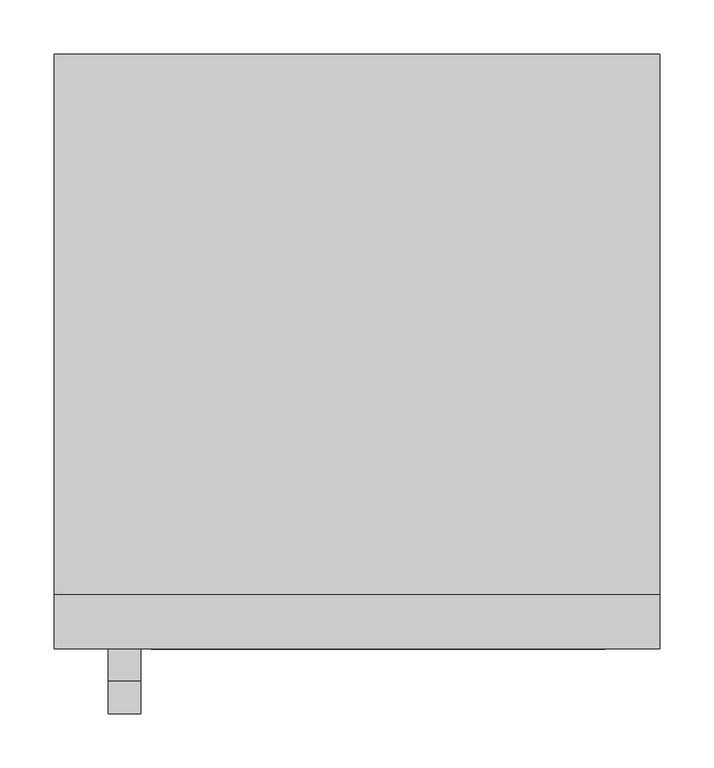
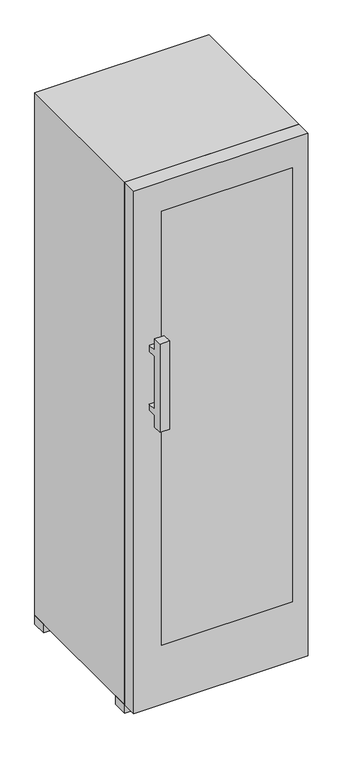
"""IFC4 building model written with IfcOpenShell, lengths in millimetres: proxy geometry, EWTdf 3553_136 : EWTdf 3553."""

from ifc_helpers import new_model, si_unit, point, frame, frame_2d, origin, place, context, project, spatial, polyline, circle_curve, trimmed, segment, composite_curve, outline, extrude, faceted_brep, source, transform, mapped, element, save


def specialty_equipment_ff0b1e05(model_context):
    return source(origin(), model_context, "Body", "SolidModel", [
        extrude(outline(polyline([(-692.448528, -531.1342967), (-717.448528, -531.1342967), (-717.448528, -529.8345306), (-692.448528, -529.8345306), (-692.448528, -531.1342967)])), frame((0.0, 0.0, 405.8027179), z_axis=(0.0, 0.0, 1.0), x_axis=(1.0, 0.0, 0.0)), (0.0, 0.0, 1.0), 20.0),
        extrude(outline(composite_curve([segment(trimmed(circle_curve(frame_2d((409.5232791, -679.3417286)), 1.0553617), [point((409.5232791, -680.3970903))], [point((409.5232791, -678.2863669))], False, "CARTESIAN"), True, "CONTINUOUS"), segment(trimmed(circle_curve(frame_2d((409.5232791, -679.3417286)), 1.0553617), [point((409.5232791, -678.2863669))], [point((409.5232791, -680.3970903))], False, "CARTESIAN"), True, "CONTINUOUS")], self_intersect=False)), frame((0.0, -531.1342967, 0.0), z_axis=(0.0, 1.0, 0.0), x_axis=(0.0, 0.0, 1.0)), (0.0, 0.0, 1.0), 1.2997661),
        extrude(outline(composite_curve([segment(trimmed(circle_curve(frame_2d((409.5232791, -669.3417286)), 1.0553617), [point((409.5232791, -670.3970903))], [point((409.5232791, -668.2863669))], False, "CARTESIAN"), True, "CONTINUOUS"), segment(trimmed(circle_curve(frame_2d((409.5232791, -669.3417286)), 1.0553617), [point((409.5232791, -668.2863669))], [point((409.5232791, -670.3970903))], False, "CARTESIAN"), True, "CONTINUOUS")], self_intersect=False)), frame((0.0, -531.1342967, 0.0), z_axis=(0.0, 1.0, 0.0), x_axis=(0.0, 0.0, 1.0)), (0.0, 0.0, 1.0), 1.2997661),
        extrude(outline(composite_curve([segment(trimmed(circle_curve(frame_2d((409.5232791, -659.3417286)), 1.0553617), [point((409.5232791, -660.3970903))], [point((409.5232791, -658.2863669))], False, "CARTESIAN"), True, "CONTINUOUS"), segment(trimmed(circle_curve(frame_2d((409.5232791, -659.3417286)), 1.0553617), [point((409.5232791, -658.2863669))], [point((409.5232791, -660.3970903))], False, "CARTESIAN"), True, "CONTINUOUS")], self_intersect=False)), frame((0.0, -531.1342967, 0.0), z_axis=(0.0, 1.0, 0.0), x_axis=(0.0, 0.0, 1.0)), (0.0, 0.0, 1.0), 1.2997661),
        extrude(outline(composite_curve([segment(trimmed(circle_curve(frame_2d((421.2635959, -745.9243738)), 1.0553617), [point((421.2635959, -746.9797355))], [point((421.2635959, -744.8690121))], False, "CARTESIAN"), True, "CONTINUOUS"), segment(trimmed(circle_curve(frame_2d((421.2635959, -745.9243738)), 1.0553617), [point((421.2635959, -744.8690121))], [point((421.2635959, -746.9797355))], False, "CARTESIAN"), True, "CONTINUOUS")], self_intersect=False)), frame((0.0, -531.1342967, 0.0), z_axis=(0.0, 1.0, 0.0), x_axis=(0.0, 0.0, 1.0)), (0.0, 0.0, 1.0), 1.2997661),
        extrude(outline(composite_curve([segment(trimmed(circle_curve(frame_2d((421.2635959, -735.9243738)), 1.0553617), [point((421.2635959, -736.9797355))], [point((421.2635959, -734.8690121))], False, "CARTESIAN"), True, "CONTINUOUS"), segment(trimmed(circle_curve(frame_2d((421.2635959, -735.9243738)), 1.0553617), [point((421.2635959, -734.8690121))], [point((421.2635959, -736.9797355))], False, "CARTESIAN"), True, "CONTINUOUS")], self_intersect=False)), frame((0.0, -531.1342967, 0.0), z_axis=(0.0, 1.0, 0.0), x_axis=(0.0, 0.0, 1.0)), (0.0, 0.0, 1.0), 1.2997661),
        extrude(outline(composite_curve([segment(trimmed(circle_curve(frame_2d((421.2635959, -725.9243738)), 1.0553617), [point((421.2635959, -726.9797355))], [point((421.2635959, -724.8690121))], False, "CARTESIAN"), True, "CONTINUOUS"), segment(trimmed(circle_curve(frame_2d((421.2635959, -725.9243738)), 1.0553617), [point((421.2635959, -724.8690121))], [point((421.2635959, -726.9797355))], False, "CARTESIAN"), True, "CONTINUOUS")], self_intersect=False)), frame((0.0, -531.1342967, 0.0), z_axis=(0.0, 1.0, 0.0), x_axis=(0.0, 0.0, 1.0)), (0.0, 0.0, 1.0), 1.2997661),
        extrude(outline(polyline([(-490.0, -79.8345306), (-490.0, -175.6398717), (-490.0, -529.8345306), (-910.0, -529.8345306), (-910.0, -79.8345306), (-490.0, -79.8345306)]), holes=[polyline([(-826.9287663, -109.8345306), (-880.0, -109.8345306), (-880.0, -499.8345306), (-851.9287663, -499.8345306), (-826.9287663, -499.8345306), (-826.9287663, -109.8345306)]), polyline([(-811.2401916, -499.8345306), (-746.9287663, -499.8345306), (-746.9287663, -109.8345306), (-811.2401916, -109.8345306), (-811.2401916, -499.8345306)]), polyline([(-731.2401916, -499.8345306), (-661.9287663, -499.8345306), (-661.9287663, -109.8345306), (-731.2401916, -109.8345306), (-731.2401916, -499.8345306)]), polyline([(-520.0, -109.8345306), (-576.2401916, -109.8345306), (-576.2401916, -499.8345306), (-520.0, -499.8345306), (-520.0, -109.8345306)]), polyline([(-646.2401916, -499.8345306), (-591.9287663, -499.8345306), (-591.9287663, -109.8345306), (-646.2401916, -109.8345306), (-646.2401916, -499.8345306)])]), frame((0.0, 0.0, 581.8132517), z_axis=(0.0, 0.0, 1.0), x_axis=(1.0, 0.0, 0.0)), (0.0, 0.0, 1.0), 20.0),
        extrude(outline(polyline([(-490.0, -79.8345306), (-490.0, -175.6398717), (-490.0, -529.8345306), (-910.0, -529.8345306), (-910.0, -79.8345306), (-490.0, -79.8345306)]), holes=[polyline([(-826.9287663, -109.8345306), (-880.0, -109.8345306), (-880.0, -499.8345306), (-851.9287663, -499.8345306), (-826.9287663, -499.8345306), (-826.9287663, -109.8345306)]), polyline([(-811.2401916, -499.8345306), (-746.9287663, -499.8345306), (-746.9287663, -109.8345306), (-811.2401916, -109.8345306), (-811.2401916, -499.8345306)]), polyline([(-731.2401916, -499.8345306), (-661.9287663, -499.8345306), (-661.9287663, -109.8345306), (-731.2401916, -109.8345306), (-731.2401916, -499.8345306)]), polyline([(-520.0, -109.8345306), (-576.2401916, -109.8345306), (-576.2401916, -499.8345306), (-520.0, -499.8345306), (-520.0, -109.8345306)]), polyline([(-646.2401916, -499.8345306), (-591.9287663, -499.8345306), (-591.9287663, -109.8345306), (-646.2401916, -109.8345306), (-646.2401916, -499.8345306)])]), frame((0.0, 0.0, 761.8132517), z_axis=(0.0, 0.0, 1.0), x_axis=(1.0, 0.0, 0.0)), (0.0, 0.0, 1.0), 20.0),
        extrude(outline(polyline([(-490.0, -79.8345306), (-490.0, -175.6398717), (-490.0, -529.8345306), (-910.0, -529.8345306), (-910.0, -79.8345306), (-490.0, -79.8345306)]), holes=[polyline([(-826.9287663, -109.8345306), (-880.0, -109.8345306), (-880.0, -499.8345306), (-851.9287663, -499.8345306), (-826.9287663, -499.8345306), (-826.9287663, -109.8345306)]), polyline([(-811.2401916, -499.8345306), (-746.9287663, -499.8345306), (-746.9287663, -109.8345306), (-811.2401916, -109.8345306), (-811.2401916, -499.8345306)]), polyline([(-731.2401916, -499.8345306), (-661.9287663, -499.8345306), (-661.9287663, -109.8345306), (-731.2401916, -109.8345306), (-731.2401916, -499.8345306)]), polyline([(-520.0, -109.8345306), (-576.2401916, -109.8345306), (-576.2401916, -499.8345306), (-520.0, -499.8345306), (-520.0, -109.8345306)]), polyline([(-646.2401916, -499.8345306), (-591.9287663, -499.8345306), (-591.9287663, -109.8345306), (-646.2401916, -109.8345306), (-646.2401916, -499.8345306)])]), frame((0.0, 0.0, 881.8132517), z_axis=(0.0, 0.0, 1.0), x_axis=(1.0, 0.0, 0.0)), (0.0, 0.0, 1.0), 20.0),
        extrude(outline(polyline([(-490.0, -79.8345306), (-490.0, -175.6398717), (-490.0, -529.8345306), (-910.0, -529.8345306), (-910.0, -79.8345306), (-490.0, -79.8345306)]), holes=[polyline([(-826.9287663, -109.8345306), (-880.0, -109.8345306), (-880.0, -499.8345306), (-851.9287663, -499.8345306), (-826.9287663, -499.8345306), (-826.9287663, -109.8345306)]), polyline([(-811.2401916, -499.8345306), (-746.9287663, -499.8345306), (-746.9287663, -109.8345306), (-811.2401916, -109.8345306), (-811.2401916, -499.8345306)]), polyline([(-731.2401916, -499.8345306), (-661.9287663, -499.8345306), (-661.9287663, -109.8345306), (-731.2401916, -109.8345306), (-731.2401916, -499.8345306)]), polyline([(-520.0, -109.8345306), (-576.2401916, -109.8345306), (-576.2401916, -499.8345306), (-520.0, -499.8345306), (-520.0, -109.8345306)]), polyline([(-646.2401916, -499.8345306), (-591.9287663, -499.8345306), (-591.9287663, -109.8345306), (-646.2401916, -109.8345306), (-646.2401916, -499.8345306)])]), frame((0.0, 0.0, 1001.8132517), z_axis=(0.0, 0.0, 1.0), x_axis=(1.0, 0.0, 0.0)), (0.0, 0.0, 1.0), 20.0),
        extrude(outline(polyline([(-490.0, -79.8345306), (-490.0, -175.6398717), (-490.0, -529.8345306), (-910.0, -529.8345306), (-910.0, -79.8345306), (-490.0, -79.8345306)]), holes=[polyline([(-826.9287663, -109.8345306), (-880.0, -109.8345306), (-880.0, -499.8345306), (-851.9287663, -499.8345306), (-826.9287663, -499.8345306), (-826.9287663, -109.8345306)]), polyline([(-811.2401916, -499.8345306), (-746.9287663, -499.8345306), (-746.9287663, -109.8345306), (-811.2401916, -109.8345306), (-811.2401916, -499.8345306)]), polyline([(-731.2401916, -499.8345306), (-661.9287663, -499.8345306), (-661.9287663, -109.8345306), (-731.2401916, -109.8345306), (-731.2401916, -499.8345306)]), polyline([(-520.0, -109.8345306), (-576.2401916, -109.8345306), (-576.2401916, -499.8345306), (-520.0, -499.8345306), (-520.0, -109.8345306)]), polyline([(-646.2401916, -499.8345306), (-591.9287663, -499.8345306), (-591.9287663, -109.8345306), (-646.2401916, -109.8345306), (-646.2401916, -499.8345306)])]), frame((0.0, 0.0, -355.1867483), z_axis=(0.0, 0.0, 1.0), x_axis=(1.0, 0.0, 0.0)), (0.0, 0.0, 1.0), 20.0),
        extrude(outline(polyline([(-490.0, -79.8345306), (-490.0, -175.6398717), (-490.0, -529.8345306), (-910.0, -529.8345306), (-910.0, -79.8345306), (-490.0, -79.8345306)]), holes=[polyline([(-826.9287663, -109.8345306), (-880.0, -109.8345306), (-880.0, -499.8345306), (-851.9287663, -499.8345306), (-826.9287663, -499.8345306), (-826.9287663, -109.8345306)]), polyline([(-811.2401916, -499.8345306), (-746.9287663, -499.8345306), (-746.9287663, -109.8345306), (-811.2401916, -109.8345306), (-811.2401916, -499.8345306)]), polyline([(-731.2401916, -499.8345306), (-661.9287663, -499.8345306), (-661.9287663, -109.8345306), (-731.2401916, -109.8345306), (-731.2401916, -499.8345306)]), polyline([(-520.0, -109.8345306), (-576.2401916, -109.8345306), (-576.2401916, -499.8345306), (-520.0, -499.8345306), (-520.0, -109.8345306)]), polyline([(-646.2401916, -499.8345306), (-591.9287663, -499.8345306), (-591.9287663, -109.8345306), (-646.2401916, -109.8345306), (-646.2401916, -499.8345306)])]), frame((0.0, 0.0, -98.1867483), z_axis=(0.0, 0.0, 1.0), x_axis=(1.0, 0.0, 0.0)), (0.0, 0.0, 1.0), 20.0),
        extrude(outline(polyline([(-490.0, -79.8345306), (-490.0, -175.6398717), (-490.0, -529.8345306), (-910.0, -529.8345306), (-910.0, -79.8345306), (-490.0, -79.8345306)]), holes=[polyline([(-826.9287663, -109.8345306), (-880.0, -109.8345306), (-880.0, -499.8345306), (-851.9287663, -499.8345306), (-826.9287663, -499.8345306), (-826.9287663, -109.8345306)]), polyline([(-811.2401916, -499.8345306), (-746.9287663, -499.8345306), (-746.9287663, -109.8345306), (-811.2401916, -109.8345306), (-811.2401916, -499.8345306)]), polyline([(-731.2401916, -499.8345306), (-661.9287663, -499.8345306), (-661.9287663, -109.8345306), (-731.2401916, -109.8345306), (-731.2401916, -499.8345306)]), polyline([(-520.0, -109.8345306), (-576.2401916, -109.8345306), (-576.2401916, -499.8345306), (-520.0, -499.8345306), (-520.0, -109.8345306)]), polyline([(-646.2401916, -499.8345306), (-591.9287663, -499.8345306), (-591.9287663, -109.8345306), (-646.2401916, -109.8345306), (-646.2401916, -499.8345306)])]), frame((0.0, 0.0, 241.8132517), z_axis=(0.0, 0.0, 1.0), x_axis=(1.0, 0.0, 0.0)), (0.0, 0.0, 1.0), 20.0),
        extrude(outline(polyline([(-490.0, -79.8345306), (-490.0, -175.6398717), (-490.0, -529.8345306), (-910.0, -529.8345306), (-910.0, -79.8345306), (-490.0, -79.8345306)]), holes=[polyline([(-826.9287663, -109.8345306), (-880.0, -109.8345306), (-880.0, -499.8345306), (-851.9287663, -499.8345306), (-826.9287663, -499.8345306), (-826.9287663, -109.8345306)]), polyline([(-811.2401916, -499.8345306), (-746.9287663, -499.8345306), (-746.9287663, -109.8345306), (-811.2401916, -109.8345306), (-811.2401916, -499.8345306)]), polyline([(-731.2401916, -499.8345306), (-661.9287663, -499.8345306), (-661.9287663, -109.8345306), (-731.2401916, -109.8345306), (-731.2401916, -499.8345306)]), polyline([(-520.0, -109.8345306), (-576.2401916, -109.8345306), (-576.2401916, -499.8345306), (-520.0, -499.8345306), (-520.0, -109.8345306)]), polyline([(-646.2401916, -499.8345306), (-591.9287663, -499.8345306), (-591.9287663, -109.8345306), (-646.2401916, -109.8345306), (-646.2401916, -499.8345306)])]), frame((0.0, 0.0, 41.8132517), z_axis=(0.0, 0.0, 1.0), x_axis=(1.0, 0.0, 0.0)), (0.0, 0.0, 1.0), 20.0),
        extrude(outline(polyline([(-490.0, -79.8345306), (-490.0, -154.8644618), (-490.0, -529.8345306), (-910.0, -529.8345306), (-910.0, -79.8345306), (-490.0, -79.8345306)])), frame((0.0, 0.0, 396.8132517), z_axis=(0.0, 0.0, 1.0), x_axis=(1.0, 0.0, 0.0)), (0.0, 0.0, 1.0), 36.0463548),
        extrude(outline(polyline([(-490.0, -579.8345306), (-910.0, -579.8345306), (-910.0, -529.8345306), (-490.0, -529.8345306), (-490.0, -579.8345306)])), frame((0.0, 0.0, -355.1867483), z_axis=(0.0, 0.0, 1.0), x_axis=(1.0, 0.0, 0.0)), (0.0, 0.0, 1.0), 1472.0),
        extrude(outline(polyline([(1216.8132517, -440.0), (1216.8132517, -1000.0), (-555.1867483, -1000.0), (-555.1867483, -440.0), (1216.8132517, -440.0)]), holes=[polyline([(1116.8132517, -910.0), (1116.8132517, -490.0), (-355.1867483, -490.0), (-355.1867483, -910.0), (1116.8132517, -910.0)])]), frame((0.0, -579.8345306, 0.0), z_axis=(0.0, 1.0, 0.0), x_axis=(0.0, 0.0, 1.0)), (0.0, 0.0, 1.0), 50.0),
        faceted_brep([(-440.0, -529.8345306, 1216.8132517), (-1000.0, -529.8345306, 1216.8132517), (-1000.0, -529.8345306, -555.1867483), (-440.0, -529.8345306, -555.1867483), (-910.0, -529.8345306, 1116.8132517), (-490.0, -529.8345306, 1116.8132517), (-490.0, -529.8345306, -355.1867483), (-910.0, -529.8345306, -355.1867483), (-440.0, -29.8345306, 1216.8132517), (-440.0, -29.8345306, -555.1867483), (-1000.0, -29.8345306, -555.1867483), (-1000.0, -29.8345306, 1216.8132517), (-490.0, -79.8345306, 1116.8132517), (-910.0, -79.8345306, 1116.8132517), (-910.0, -79.8345306, -355.1867483), (-490.0, -79.8345306, -355.1867483)], [[[0, 1, 2, 3], [4, 5, 6, 7]], [[8, 9, 10, 11]], [[1, 0, 8, 11]], [[2, 1, 11, 10]], [[3, 2, 10, 9]], [[0, 3, 9, 8]], [[12, 13, 14, 15]], [[13, 12, 5, 4]], [[14, 13, 4, 7]], [[15, 14, 7, 6]], [[12, 15, 6, 5]]]),
        extrude(outline(polyline([(-440.0, -479.8345306), (-440.0, -529.8345306), (-490.0, -529.8345306), (-490.0, -479.8345306), (-440.0, -479.8345306)])), frame((0.0, 0.0, -585.1867483), z_axis=(0.0, 0.0, 1.0), x_axis=(1.0, 0.0, 0.0)), (0.0, 0.0, 1.0), 30.0),
        extrude(outline(polyline([(-440.0, -29.8345306), (-440.0, -79.8345306), (-490.0, -79.8345306), (-490.0, -29.8345306), (-440.0, -29.8345306)])), frame((0.0, 0.0, -585.1867483), z_axis=(0.0, 0.0, 1.0), x_axis=(1.0, 0.0, 0.0)), (0.0, 0.0, 1.0), 30.0),
        extrude(outline(polyline([(-950.0, -29.8345306), (-950.0, -79.8345306), (-1000.0, -79.8345306), (-1000.0, -29.8345306), (-950.0, -29.8345306)])), frame((0.0, 0.0, -585.1867483), z_axis=(0.0, 0.0, 1.0), x_axis=(1.0, 0.0, 0.0)), (0.0, 0.0, 1.0), 30.0),
        extrude(outline(polyline([(-950.0, -479.8345306), (-950.0, -529.8345306), (-1000.0, -529.8345306), (-1000.0, -479.8345306), (-950.0, -479.8345306)])), frame((0.0, 0.0, -585.1867483), z_axis=(0.0, 0.0, 1.0), x_axis=(1.0, 0.0, 0.0)), (0.0, 0.0, 1.0), 30.0),
        extrude(outline(polyline([(-609.8345306, 676.8132517), (-579.8345306, 676.8132517), (-579.8345306, 656.8132517), (-609.8345306, 656.8132517), (-609.8345306, 476.8132517), (-579.8345306, 476.8132517), (-579.8345306, 456.8132517), (-609.8345306, 456.8132517), (-609.8345306, 416.8132517), (-639.8345306, 416.8132517), (-639.8345306, 716.8132517), (-609.8345306, 716.8132517), (-609.8345306, 676.8132517)])), frame((-950.0, 0.0, 0.0), z_axis=(1.0, 0.0, 0.0), x_axis=(0.0, 1.0, 0.0)), (0.0, 0.0, 1.0), 30.0),
    ])


if __name__ == "__main__":
    model = new_model("IFC4")
    model_context = context("Model", 3, world=origin())
    ifc_project = project(units=[si_unit("LENGTHUNIT", "METRE", prefix="MILLI")], contexts=[model_context])
    site = spatial("IfcSite", under=ifc_project)
    building = spatial("IfcBuilding", under=site)
    placement = place(None, origin())
    specialty_equipment_shape = specialty_equipment_ff0b1e05(model_context)
    element("IfcBuildingElementProxy", 1, Name="EWTdf 3553_136 : EWTdf 3553", ObjectType="EWTdf 3553_136 : EWTdf 3553", at=placement, inside=building, context=model_context, shape_type="MappedRepresentation", body=[
        mapped(specialty_equipment_shape, transform((0.0, 0.0, 0.0), x_axis=(1.0, 0.0, 0.0), y_axis=(0.0, 1.0, 0.0), z_axis=(0.0, 0.0, 1.0))),
    ])
    save(model, "model.ifc")
